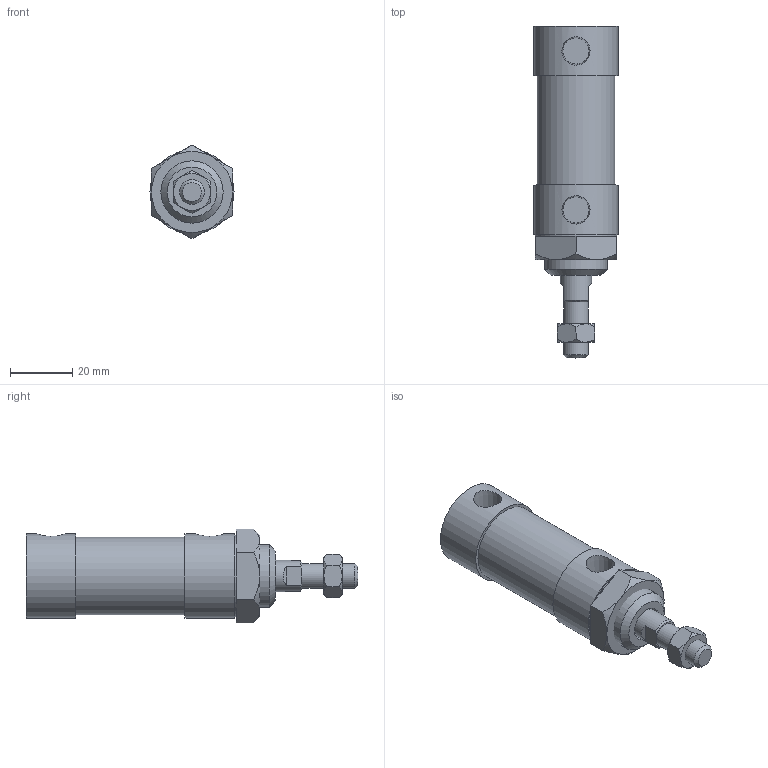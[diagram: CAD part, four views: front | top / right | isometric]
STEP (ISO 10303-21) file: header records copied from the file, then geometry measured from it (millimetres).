
FILE_DESCRIPTION(/* description */ ('Unknown'),/* implementation_level */ '2;1');
FILE_NAME(/* name */ 'WK20-FT',/* time_stamp */ '2026-07-17T16:28:40+08:00',/* author */ ('Unknown'),/* organization */ ('Unknown'),/* preprocessor_version */ 'ST-DEVELOPER v16.7',/* originating_system */ 'DEX',/* authorisation */ $);
FILE_SCHEMA (('CONFIG_CONTROL_DESIGN'));
Length unit declared in the file: millimetre
Products named in the file (7): WK20-FT; WK20_前; WK20_鋁; WK20_心軸活ionRefs; M8-1.25P-6_螺; M20-1.5P-8_螺; WK20_FT
Assembly tree (6 placements, depth 2):
  WK20-FT
    WK20_前
    WK20_鋁
    WK20_心軸活ionRefs
    M8-1.25P-6_螺
    M20-1.5P-8_螺
    WK20_FT
Bounding box: 27 x 106.5 x 30.02 mm (x, y, z)
Volume: 44033.3 mm3; surface area: 19500.2 mm2
Topology: 6 solids, 6 shells, 77 faces, 158 edges, 99 vertices
Faces by surface type: plane 42, cone 21, cylinder 14
Full cylindrical faces by diameter (mm): 6.8 x1, 8 x1, 10 x2, 18.376 x1, 19.5 x1, 20 x2, 22 x2, 25 x1, 26 x1, 27 x2
Entity records: 2576 total; most frequent: CARTESIAN_POINT 458, DIRECTION 318, ORIENTED_EDGE 244, AXIS2_PLACEMENT_3D 142, EDGE_CURVE 122, EDGE_LOOP 118, FACE_BOUND 118, VERTEX_POINT 90
